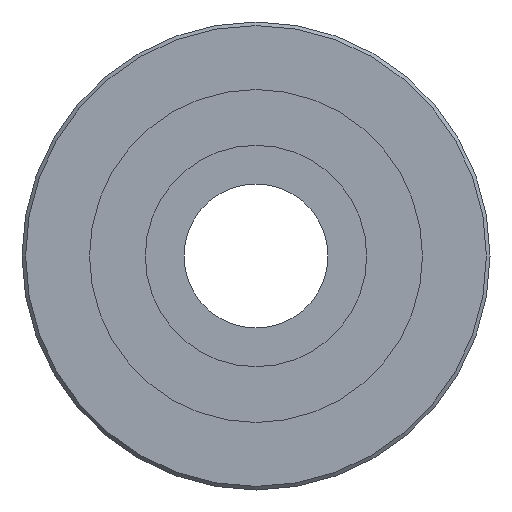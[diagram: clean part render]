
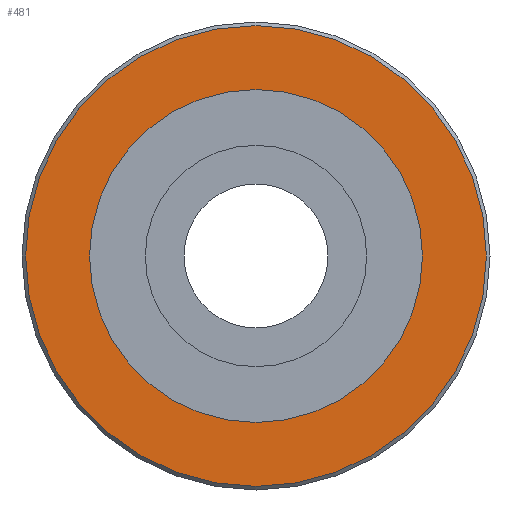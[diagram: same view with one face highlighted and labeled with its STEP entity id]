
A CAD part, left-side view. The second image highlights one B-rep face of the part: STEP entity #481.
In plain terms, the highlighted planar face has unit normal (-1, 0, 0).
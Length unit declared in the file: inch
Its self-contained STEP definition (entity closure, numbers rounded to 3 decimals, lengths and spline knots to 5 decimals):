
#454=CARTESIAN_POINT('',(11.25,33.95,0.));
#455=VERTEX_POINT('',#454);
#456=CARTESIAN_POINT('',(11.25,21.15,0.));
#457=DIRECTION('',(-1.,0.,0.));
#458=DIRECTION('',(0.,1.,0.));
#459=AXIS2_PLACEMENT_3D('',#456,#457,#458);
#460=CIRCLE('',#459,12.8);
#461=EDGE_CURVE('',#455,#455,#460,.T.);
#462=ORIENTED_EDGE('',*,*,#461,.T.);
#463=EDGE_LOOP('',(#462));
#464=FACE_OUTER_BOUND('',#463,.T.);
#465=CARTESIAN_POINT('',(11.25,30.4,0.));
#466=VERTEX_POINT('',#465);
#467=CARTESIAN_POINT('',(11.25,21.15,0.));
#468=DIRECTION('',(-1.,0.,0.));
#469=DIRECTION('',(0.,1.,0.));
#470=AXIS2_PLACEMENT_3D('',#467,#468,#469);
#471=CIRCLE('',#470,9.25);
#472=EDGE_CURVE('',#466,#466,#471,.T.);
#473=ORIENTED_EDGE('',*,*,#472,.F.);
#474=EDGE_LOOP('',(#473));
#475=FACE_BOUND('',#474,.T.);
#476=CARTESIAN_POINT('',(11.25,32.175,0.));
#477=DIRECTION('',(-1.,0.,0.));
#478=DIRECTION('',(0.,1.,0.));
#479=AXIS2_PLACEMENT_3D('',#476,#477,#478);
#480=PLANE('',#479);
#481=ADVANCED_FACE('',(#464,#475),#480,.T.);
